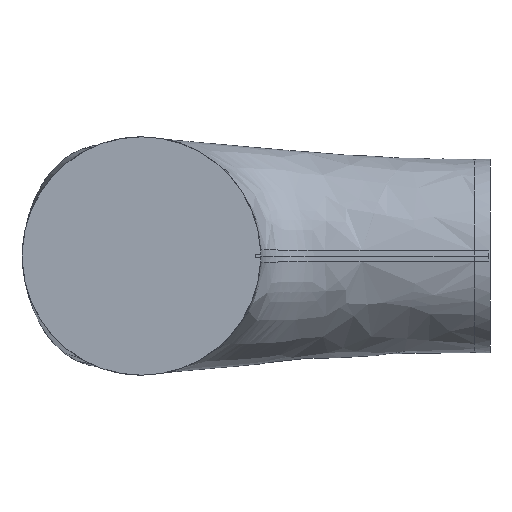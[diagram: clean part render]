
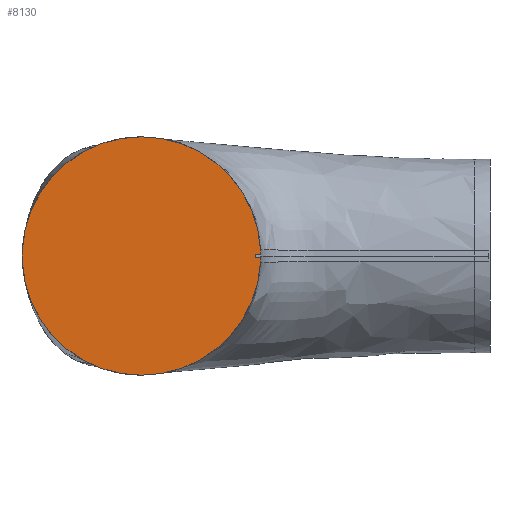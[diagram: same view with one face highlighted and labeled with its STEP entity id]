
A CAD part, front view. The second image highlights one B-rep face of the part: STEP entity #8130.
In plain terms, the highlighted planar face has unit normal (0, -1, 0).
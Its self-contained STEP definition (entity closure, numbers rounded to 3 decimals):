
#232 = CARTESIAN_POINT ( 'NONE',  ( 104.647, -58., 1182.5 ) ) ;
#265 = CARTESIAN_POINT ( 'NONE',  ( 104.647, -58., 1182.5 ) ) ;
#413 = ORIENTED_EDGE ( 'NONE', *, *, #4941, .T. ) ;
#494 = CARTESIAN_POINT ( 'NONE',  ( 251.993, -58., 1181.5 ) ) ;
#564 = AXIS2_PLACEMENT_3D ( 'NONE', #2459, #4694, #7071 ) ;
#623 = EDGE_CURVE ( 'NONE', #970, #7067, #3935, .T. ) ;
#650 = ORIENTED_EDGE ( 'NONE', *, *, #4302, .T. ) ;
#685 = LINE ( 'NONE', #3119, #7151 ) ;
#777 = DIRECTION ( 'NONE',  ( 0., 0., 1. ) ) ;
#844 = CARTESIAN_POINT ( 'NONE',  ( 255.147, -58., 1178.562 ) ) ;
#907 = ORIENTED_EDGE ( 'NONE', *, *, #8065, .T. ) ;
#918 = DIRECTION ( 'NONE',  ( 0., 0., 1. ) ) ;
#924 = VECTOR ( 'NONE', #3497, 1000. ) ;
#955 = LINE ( 'NONE', #265, #924 ) ;
#970 = VERTEX_POINT ( 'NONE', #3138 ) ;
#1090 = CARTESIAN_POINT ( 'NONE',  ( 180., -58., 1181.5 ) ) ;
#1240 = CIRCLE ( 'NONE', #7169, 75.25 ) ;
#1278 = DIRECTION ( 'NONE',  ( 0., -1., 0. ) ) ;
#1732 = CARTESIAN_POINT ( 'NONE',  ( 180., -58., 1257.75 ) ) ;
#2040 = VERTEX_POINT ( 'NONE', #8919 ) ;
#2070 = VECTOR ( 'NONE', #3375, 1000. ) ;
#2090 = EDGE_CURVE ( 'NONE', #2040, #7149, #9003, .T. ) ;
#2093 = CARTESIAN_POINT ( 'NONE',  ( 255.353, -58., 1182.5 ) ) ;
#2101 = CARTESIAN_POINT ( 'NONE',  ( 104.853, -58., 1186.438 ) ) ;
#2236 = LINE ( 'NONE', #2294, #3959 ) ;
#2294 = CARTESIAN_POINT ( 'NONE',  ( 255.353, -58., 1182.5 ) ) ;
#2459 = CARTESIAN_POINT ( 'NONE',  ( 180., -58., 1182.5 ) ) ;
#2554 = EDGE_CURVE ( 'NONE', #8920, #7957, #685, .T. ) ;
#2760 = VECTOR ( 'NONE', #4851, 1000. ) ;
#2826 = VERTEX_POINT ( 'NONE', #7727 ) ;
#3046 = LINE ( 'NONE', #8082, #2760 ) ;
#3071 = ORIENTED_EDGE ( 'NONE', *, *, #4907, .F. ) ;
#3119 = CARTESIAN_POINT ( 'NONE',  ( 104.647, -58., 1182.5 ) ) ;
#3138 = CARTESIAN_POINT ( 'NONE',  ( 255.147, -58., 1186.438 ) ) ;
#3375 = DIRECTION ( 'NONE',  ( 1., 0., 0. ) ) ;
#3497 = DIRECTION ( 'NONE',  ( -0.052, 0., -0.999 ) ) ;
#3631 = AXIS2_PLACEMENT_3D ( 'NONE', #4096, #7425, #9716 ) ;
#3732 = VERTEX_POINT ( 'NONE', #8791 ) ;
#3802 = VERTEX_POINT ( 'NONE', #2101 ) ;
#3909 = ORIENTED_EDGE ( 'NONE', *, *, #4654, .F. ) ;
#3935 = CIRCLE ( 'NONE', #4108, 75.25 ) ;
#3959 = VECTOR ( 'NONE', #9612, 1000. ) ;
#4096 = CARTESIAN_POINT ( 'NONE',  ( 180., -58., 1182.5 ) ) ;
#4108 = AXIS2_PLACEMENT_3D ( 'NONE', #4337, #7559, #7509 ) ;
#4302 = EDGE_CURVE ( 'NONE', #7149, #6764, #5281, .T. ) ;
#4337 = CARTESIAN_POINT ( 'NONE',  ( 180., -58., 1182.5 ) ) ;
#4366 = ORIENTED_EDGE ( 'NONE', *, *, #2554, .T. ) ;
#4654 = EDGE_CURVE ( 'NONE', #6528, #6764, #7134, .T. ) ;
#4694 = DIRECTION ( 'NONE',  ( 0., -1., 0. ) ) ;
#4789 = CARTESIAN_POINT ( 'NONE',  ( 104.853, -58., 1178.562 ) ) ;
#4834 = EDGE_CURVE ( 'NONE', #6528, #3732, #5479, .T. ) ;
#4851 = DIRECTION ( 'NONE',  ( -1., 0., 0. ) ) ;
#4894 = DIRECTION ( 'NONE',  ( 0., -1., 0. ) ) ;
#4901 = DIRECTION ( 'NONE',  ( 0., -1., 0. ) ) ;
#4907 = EDGE_CURVE ( 'NONE', #2826, #3732, #3046, .T. ) ;
#4941 = EDGE_CURVE ( 'NONE', #7067, #3802, #9354, .T. ) ;
#5000 = FACE_OUTER_BOUND ( 'NONE', #8151, .T. ) ;
#5231 = ORIENTED_EDGE ( 'NONE', *, *, #4834, .T. ) ;
#5281 = LINE ( 'NONE', #2093, #8182 ) ;
#5479 = CIRCLE ( 'NONE', #9191, 72. ) ;
#5791 = PLANE ( 'NONE',  #3631 ) ;
#6065 = ORIENTED_EDGE ( 'NONE', *, *, #7579, .T. ) ;
#6528 = VERTEX_POINT ( 'NONE', #494 ) ;
#6764 = VERTEX_POINT ( 'NONE', #9491 ) ;
#6804 = AXIS2_PLACEMENT_3D ( 'NONE', #8176, #4894, #918 ) ;
#7067 = VERTEX_POINT ( 'NONE', #1732 ) ;
#7071 = DIRECTION ( 'NONE',  ( 0., 0., 1. ) ) ;
#7134 = LINE ( 'NONE', #1090, #2070 ) ;
#7149 = VERTEX_POINT ( 'NONE', #844 ) ;
#7151 = VECTOR ( 'NONE', #7821, 1000. ) ;
#7160 = ORIENTED_EDGE ( 'NONE', *, *, #2090, .T. ) ;
#7169 = AXIS2_PLACEMENT_3D ( 'NONE', #8434, #1278, #10077 ) ;
#7425 = DIRECTION ( 'NONE',  ( 0., -1., 0. ) ) ;
#7509 = DIRECTION ( 'NONE',  ( 0., 0., 1. ) ) ;
#7559 = DIRECTION ( 'NONE',  ( 0., -1., 0. ) ) ;
#7579 = EDGE_CURVE ( 'NONE', #7957, #2040, #1240, .T. ) ;
#7727 = CARTESIAN_POINT ( 'NONE',  ( 255.301, -58., 1183.5 ) ) ;
#7821 = DIRECTION ( 'NONE',  ( 0.052, 0., -0.999 ) ) ;
#7957 = VERTEX_POINT ( 'NONE', #4789 ) ;
#8065 = EDGE_CURVE ( 'NONE', #2826, #970, #2236, .T. ) ;
#8082 = CARTESIAN_POINT ( 'NONE',  ( 180., -58., 1183.5 ) ) ;
#8130 = ADVANCED_FACE ( 'NONE', ( #5000 ), #5791, .T. ) ;
#8151 = EDGE_LOOP ( 'NONE', ( #3909, #5231, #3071, #907, #9506, #413, #9343, #4366, #6065, #7160, #650 ) ) ;
#8176 = CARTESIAN_POINT ( 'NONE',  ( 180., -58., 1182.5 ) ) ;
#8182 = VECTOR ( 'NONE', #10153, 1000. ) ;
#8434 = CARTESIAN_POINT ( 'NONE',  ( 180., -58., 1182.5 ) ) ;
#8791 = CARTESIAN_POINT ( 'NONE',  ( 251.993, -58., 1183.5 ) ) ;
#8877 = CARTESIAN_POINT ( 'NONE',  ( 180., -58., 1182.5 ) ) ;
#8919 = CARTESIAN_POINT ( 'NONE',  ( 180., -58., 1107.25 ) ) ;
#8920 = VERTEX_POINT ( 'NONE', #232 ) ;
#9003 = CIRCLE ( 'NONE', #6804, 75.25 ) ;
#9191 = AXIS2_PLACEMENT_3D ( 'NONE', #8877, #4901, #777 ) ;
#9343 = ORIENTED_EDGE ( 'NONE', *, *, #10451, .T. ) ;
#9354 = CIRCLE ( 'NONE', #564, 75.25 ) ;
#9491 = CARTESIAN_POINT ( 'NONE',  ( 255.301, -58., 1181.5 ) ) ;
#9506 = ORIENTED_EDGE ( 'NONE', *, *, #623, .T. ) ;
#9612 = DIRECTION ( 'NONE',  ( -0.052, 0., 0.999 ) ) ;
#9716 = DIRECTION ( 'NONE',  ( 0., 0., 1. ) ) ;
#10077 = DIRECTION ( 'NONE',  ( 0., 0., 1. ) ) ;
#10153 = DIRECTION ( 'NONE',  ( 0.052, 0., 0.999 ) ) ;
#10451 = EDGE_CURVE ( 'NONE', #3802, #8920, #955, .T. ) ;
